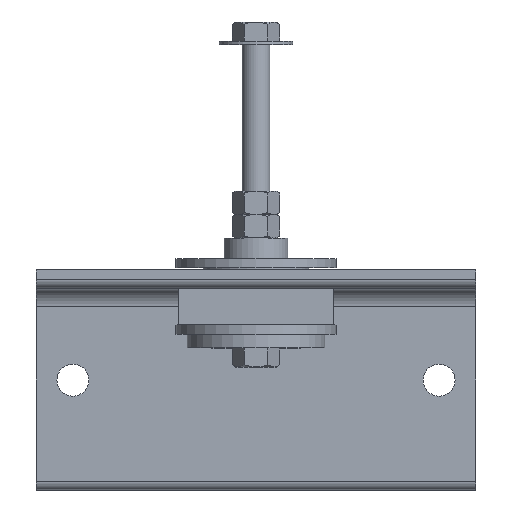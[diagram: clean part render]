
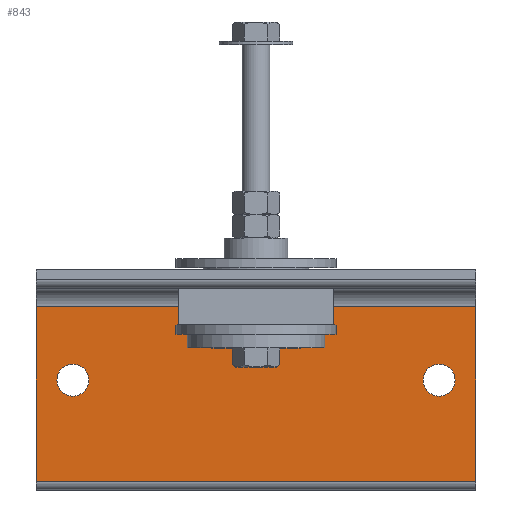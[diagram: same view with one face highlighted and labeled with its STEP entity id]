
A CAD part, top view. The second image highlights one B-rep face of the part: STEP entity #843.
In plain terms, the highlighted planar face has unit normal (0, 0, 1) as drawn and (0, -1, 0) by its records, which use the part's own axes.
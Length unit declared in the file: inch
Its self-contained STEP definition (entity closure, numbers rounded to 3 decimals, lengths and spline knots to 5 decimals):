
#657=CARTESIAN_POINT('',(3.4375,-0.5,1.0));
#658=VERTEX_POINT('',#657);
#659=CARTESIAN_POINT('',(3.,-0.5,1.0));
#660=DIRECTION('',(0.0,1.0,0.0));
#661=DIRECTION('',(1.0,0.0,0.0));
#662=AXIS2_PLACEMENT_3D('',#659,#660,#661);
#663=CIRCLE('',#662,0.4375);
#664=EDGE_CURVE('',#658,#658,#663,.T.);
#685=CARTESIAN_POINT('',(3.4375,-0.5,11.));
#686=VERTEX_POINT('',#685);
#687=CARTESIAN_POINT('',(3.,-0.5,11.));
#688=DIRECTION('',(0.0,1.0,0.0));
#689=DIRECTION('',(1.0,0.0,0.0));
#690=AXIS2_PLACEMENT_3D('',#687,#688,#689);
#691=CIRCLE('',#690,0.4375);
#692=EDGE_CURVE('',#686,#686,#691,.T.);
#779=CARTESIAN_POINT('',(5.76,-0.5,12.0));
#780=VERTEX_POINT('',#779);
#788=CARTESIAN_POINT('',(5.76,-0.5,0.0));
#789=VERTEX_POINT('',#788);
#790=CARTESIAN_POINT('',(5.76,-0.5,0.0));
#791=DIRECTION('',(0.0,0.0,1.0));
#792=VECTOR('',#791,12.0);
#793=LINE('',#790,#792);
#794=EDGE_CURVE('',#789,#780,#793,.T.);
#807=CARTESIAN_POINT('',(5.76,-0.5,0.0));
#808=DIRECTION('',(0.0,-1.0,0.0));
#809=DIRECTION('',(0.0,0.0,-1.0));
#810=AXIS2_PLACEMENT_3D('',#807,#808,#809);
#811=PLANE('',#810);
#812=CARTESIAN_POINT('',(1.,-0.5,12.0));
#813=VERTEX_POINT('',#812);
#814=CARTESIAN_POINT('',(5.76,-0.5,12.0));
#815=DIRECTION('',(-1.0,0.0,0.0));
#816=VECTOR('',#815,4.76);
#817=LINE('',#814,#816);
#818=EDGE_CURVE('',#780,#813,#817,.T.);
#819=ORIENTED_EDGE('',*,*,#818,.T.);
#820=CARTESIAN_POINT('',(1.,-0.5,0.0));
#821=VERTEX_POINT('',#820);
#822=CARTESIAN_POINT('',(1.,-0.5,0.0));
#823=DIRECTION('',(0.0,0.0,1.0));
#824=VECTOR('',#823,12.0);
#825=LINE('',#822,#824);
#826=EDGE_CURVE('',#821,#813,#825,.T.);
#827=ORIENTED_EDGE('',*,*,#826,.F.);
#828=CARTESIAN_POINT('',(5.76,-0.5,0.0));
#829=DIRECTION('',(-1.0,0.0,0.0));
#830=VECTOR('',#829,4.76);
#831=LINE('',#828,#830);
#832=EDGE_CURVE('',#789,#821,#831,.T.);
#833=ORIENTED_EDGE('',*,*,#832,.F.);
#834=ORIENTED_EDGE('',*,*,#794,.T.);
#835=EDGE_LOOP('',(#819,#827,#833,#834));
#836=FACE_OUTER_BOUND('',#835,.T.);
#837=ORIENTED_EDGE('',*,*,#664,.T.);
#838=EDGE_LOOP('',(#837));
#839=FACE_BOUND('',#838,.T.);
#840=ORIENTED_EDGE('',*,*,#692,.T.);
#841=EDGE_LOOP('',(#840));
#842=FACE_BOUND('',#841,.T.);
#843=ADVANCED_FACE('',(#836,#839,#842),#811,.T.);
